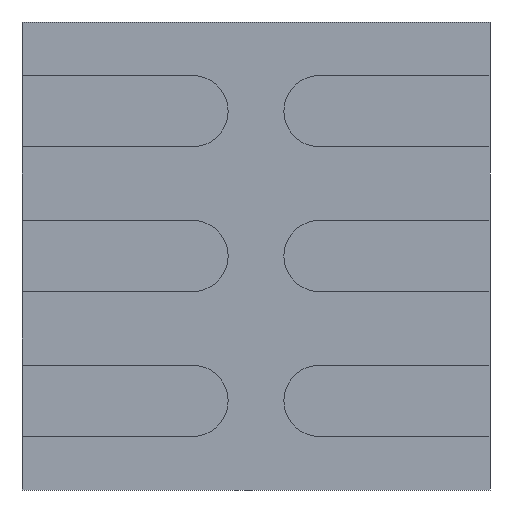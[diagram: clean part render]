
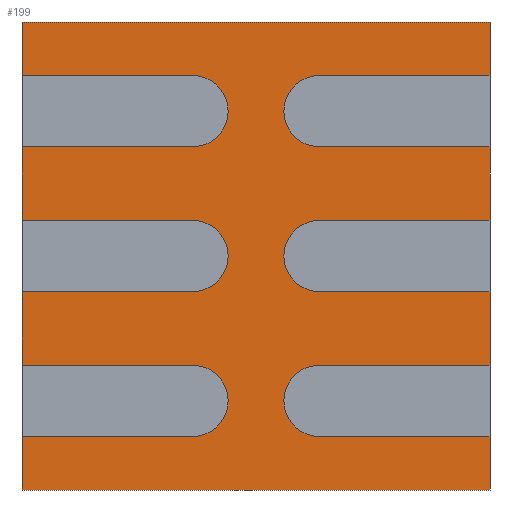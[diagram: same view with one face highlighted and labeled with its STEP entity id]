
A CAD part, front view. The second image highlights one B-rep face of the part: STEP entity #199.
In plain terms, the highlighted planar face has unit normal (0, -1, 0).
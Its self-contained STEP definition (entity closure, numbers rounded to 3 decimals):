
#67 = EDGE_CURVE('',#68,#70,#72,.T.);
#68 = VERTEX_POINT('',#69);
#69 = CARTESIAN_POINT('',(1.05,0.05,-1.05));
#70 = VERTEX_POINT('',#71);
#71 = CARTESIAN_POINT('',(1.05,0.05,-0.81));
#72 = LINE('',#73,#74);
#73 = CARTESIAN_POINT('',(1.05,0.05,-1.05));
#74 = VECTOR('',#75,1.);
#75 = DIRECTION('',(0.,0.,1.));
#94 = VERTEX_POINT('',#95);
#95 = CARTESIAN_POINT('',(1.05,0.05,1.05));
#101 = EDGE_CURVE('',#102,#94,#104,.T.);
#102 = VERTEX_POINT('',#103);
#103 = CARTESIAN_POINT('',(1.05,0.05,0.81));
#104 = LINE('',#105,#106);
#105 = CARTESIAN_POINT('',(1.05,0.05,-1.05));
#106 = VECTOR('',#107,1.);
#107 = DIRECTION('',(0.,0.,1.));
#126 = VERTEX_POINT('',#127);
#127 = CARTESIAN_POINT('',(1.05,0.05,0.49));
#133 = EDGE_CURVE('',#134,#126,#136,.T.);
#134 = VERTEX_POINT('',#135);
#135 = CARTESIAN_POINT('',(1.05,0.05,0.16));
#136 = LINE('',#137,#138);
#137 = CARTESIAN_POINT('',(1.05,0.05,-1.05));
#138 = VECTOR('',#139,1.);
#139 = DIRECTION('',(0.,0.,1.));
#158 = VERTEX_POINT('',#159);
#159 = CARTESIAN_POINT('',(1.05,0.05,-0.16));
#165 = EDGE_CURVE('',#166,#158,#168,.T.);
#166 = VERTEX_POINT('',#167);
#167 = CARTESIAN_POINT('',(1.05,0.05,-0.49));
#168 = LINE('',#169,#170);
#169 = CARTESIAN_POINT('',(1.05,0.05,-1.05));
#170 = VECTOR('',#171,1.);
#171 = DIRECTION('',(0.,0.,1.));
#199 = ADVANCED_FACE('',(#200),#396,.F.);
#200 = FACE_BOUND('',#201,.F.);
#201 = EDGE_LOOP('',(#202,#203,#211,#219,#227,#236,#244,#252,#260,#269,
    #277,#285,#293,#302,#310,#318,#324,#325,#333,#342,#348,#349,#357,
    #366,#372,#373,#381,#390));
#202 = ORIENTED_EDGE('',*,*,#67,.F.);
#203 = ORIENTED_EDGE('',*,*,#204,.F.);
#204 = EDGE_CURVE('',#205,#68,#207,.T.);
#205 = VERTEX_POINT('',#206);
#206 = CARTESIAN_POINT('',(-1.05,0.05,-1.05));
#207 = LINE('',#208,#209);
#208 = CARTESIAN_POINT('',(-1.05,0.05,-1.05));
#209 = VECTOR('',#210,1.);
#210 = DIRECTION('',(1.,0.,0.));
#211 = ORIENTED_EDGE('',*,*,#212,.F.);
#212 = EDGE_CURVE('',#213,#205,#215,.T.);
#213 = VERTEX_POINT('',#214);
#214 = CARTESIAN_POINT('',(-1.05,0.05,-0.81));
#215 = LINE('',#216,#217);
#216 = CARTESIAN_POINT('',(-1.05,0.05,1.05));
#217 = VECTOR('',#218,1.);
#218 = DIRECTION('',(0.,0.,-1.));
#219 = ORIENTED_EDGE('',*,*,#220,.T.);
#220 = EDGE_CURVE('',#213,#221,#223,.T.);
#221 = VERTEX_POINT('',#222);
#222 = CARTESIAN_POINT('',(-0.285,0.05,-0.81));
#223 = LINE('',#224,#225);
#224 = CARTESIAN_POINT('',(-0.143,0.05,-0.81));
#225 = VECTOR('',#226,1.);
#226 = DIRECTION('',(1.,0.,0.));
#227 = ORIENTED_EDGE('',*,*,#228,.T.);
#228 = EDGE_CURVE('',#221,#229,#231,.T.);
#229 = VERTEX_POINT('',#230);
#230 = CARTESIAN_POINT('',(-0.285,0.05,-0.49));
#231 = CIRCLE('',#232,0.16);
#232 = AXIS2_PLACEMENT_3D('',#233,#234,#235);
#233 = CARTESIAN_POINT('',(-0.285,0.05,-0.65));
#234 = DIRECTION('',(0.,-1.,0.));
#235 = DIRECTION('',(1.,0.,0.));
#236 = ORIENTED_EDGE('',*,*,#237,.T.);
#237 = EDGE_CURVE('',#229,#238,#240,.T.);
#238 = VERTEX_POINT('',#239);
#239 = CARTESIAN_POINT('',(-1.05,0.05,-0.49));
#240 = LINE('',#241,#242);
#241 = CARTESIAN_POINT('',(-0.525,0.05,-0.49));
#242 = VECTOR('',#243,1.);
#243 = DIRECTION('',(-1.,0.,0.));
#244 = ORIENTED_EDGE('',*,*,#245,.F.);
#245 = EDGE_CURVE('',#246,#238,#248,.T.);
#246 = VERTEX_POINT('',#247);
#247 = CARTESIAN_POINT('',(-1.05,0.05,-0.16));
#248 = LINE('',#249,#250);
#249 = CARTESIAN_POINT('',(-1.05,0.05,1.05));
#250 = VECTOR('',#251,1.);
#251 = DIRECTION('',(0.,0.,-1.));
#252 = ORIENTED_EDGE('',*,*,#253,.T.);
#253 = EDGE_CURVE('',#246,#254,#256,.T.);
#254 = VERTEX_POINT('',#255);
#255 = CARTESIAN_POINT('',(-0.285,0.05,-0.16));
#256 = LINE('',#257,#258);
#257 = CARTESIAN_POINT('',(-0.143,0.05,-0.16));
#258 = VECTOR('',#259,1.);
#259 = DIRECTION('',(1.,0.,0.));
#260 = ORIENTED_EDGE('',*,*,#261,.T.);
#261 = EDGE_CURVE('',#254,#262,#264,.T.);
#262 = VERTEX_POINT('',#263);
#263 = CARTESIAN_POINT('',(-0.285,0.05,0.16));
#264 = CIRCLE('',#265,0.16);
#265 = AXIS2_PLACEMENT_3D('',#266,#267,#268);
#266 = CARTESIAN_POINT('',(-0.285,0.05,0.));
#267 = DIRECTION('',(0.,-1.,0.));
#268 = DIRECTION('',(1.,0.,0.));
#269 = ORIENTED_EDGE('',*,*,#270,.T.);
#270 = EDGE_CURVE('',#262,#271,#273,.T.);
#271 = VERTEX_POINT('',#272);
#272 = CARTESIAN_POINT('',(-1.05,0.05,0.16));
#273 = LINE('',#274,#275);
#274 = CARTESIAN_POINT('',(-0.525,0.05,0.16));
#275 = VECTOR('',#276,1.);
#276 = DIRECTION('',(-1.,0.,0.));
#277 = ORIENTED_EDGE('',*,*,#278,.F.);
#278 = EDGE_CURVE('',#279,#271,#281,.T.);
#279 = VERTEX_POINT('',#280);
#280 = CARTESIAN_POINT('',(-1.05,0.05,0.49));
#281 = LINE('',#282,#283);
#282 = CARTESIAN_POINT('',(-1.05,0.05,1.05));
#283 = VECTOR('',#284,1.);
#284 = DIRECTION('',(0.,0.,-1.));
#285 = ORIENTED_EDGE('',*,*,#286,.T.);
#286 = EDGE_CURVE('',#279,#287,#289,.T.);
#287 = VERTEX_POINT('',#288);
#288 = CARTESIAN_POINT('',(-0.285,0.05,0.49));
#289 = LINE('',#290,#291);
#290 = CARTESIAN_POINT('',(-0.143,0.05,0.49));
#291 = VECTOR('',#292,1.);
#292 = DIRECTION('',(1.,0.,0.));
#293 = ORIENTED_EDGE('',*,*,#294,.T.);
#294 = EDGE_CURVE('',#287,#295,#297,.T.);
#295 = VERTEX_POINT('',#296);
#296 = CARTESIAN_POINT('',(-0.285,0.05,0.81));
#297 = CIRCLE('',#298,0.16);
#298 = AXIS2_PLACEMENT_3D('',#299,#300,#301);
#299 = CARTESIAN_POINT('',(-0.285,0.05,0.65));
#300 = DIRECTION('',(0.,-1.,0.));
#301 = DIRECTION('',(1.,0.,0.));
#302 = ORIENTED_EDGE('',*,*,#303,.T.);
#303 = EDGE_CURVE('',#295,#304,#306,.T.);
#304 = VERTEX_POINT('',#305);
#305 = CARTESIAN_POINT('',(-1.05,0.05,0.81));
#306 = LINE('',#307,#308);
#307 = CARTESIAN_POINT('',(-0.525,0.05,0.81));
#308 = VECTOR('',#309,1.);
#309 = DIRECTION('',(-1.,0.,0.));
#310 = ORIENTED_EDGE('',*,*,#311,.F.);
#311 = EDGE_CURVE('',#312,#304,#314,.T.);
#312 = VERTEX_POINT('',#313);
#313 = CARTESIAN_POINT('',(-1.05,0.05,1.05));
#314 = LINE('',#315,#316);
#315 = CARTESIAN_POINT('',(-1.05,0.05,1.05));
#316 = VECTOR('',#317,1.);
#317 = DIRECTION('',(0.,0.,-1.));
#318 = ORIENTED_EDGE('',*,*,#319,.F.);
#319 = EDGE_CURVE('',#94,#312,#320,.T.);
#320 = LINE('',#321,#322);
#321 = CARTESIAN_POINT('',(1.05,0.05,1.05));
#322 = VECTOR('',#323,1.);
#323 = DIRECTION('',(-1.,0.,0.));
#324 = ORIENTED_EDGE('',*,*,#101,.F.);
#325 = ORIENTED_EDGE('',*,*,#326,.T.);
#326 = EDGE_CURVE('',#102,#327,#329,.T.);
#327 = VERTEX_POINT('',#328);
#328 = CARTESIAN_POINT('',(0.285,0.05,0.81));
#329 = LINE('',#330,#331);
#330 = CARTESIAN_POINT('',(0.143,0.05,0.81));
#331 = VECTOR('',#332,1.);
#332 = DIRECTION('',(-1.,0.,0.));
#333 = ORIENTED_EDGE('',*,*,#334,.T.);
#334 = EDGE_CURVE('',#327,#335,#337,.T.);
#335 = VERTEX_POINT('',#336);
#336 = CARTESIAN_POINT('',(0.285,0.05,0.49));
#337 = CIRCLE('',#338,0.16);
#338 = AXIS2_PLACEMENT_3D('',#339,#340,#341);
#339 = CARTESIAN_POINT('',(0.285,0.05,0.65));
#340 = DIRECTION('',(0.,-1.,0.));
#341 = DIRECTION('',(1.,0.,0.));
#342 = ORIENTED_EDGE('',*,*,#343,.T.);
#343 = EDGE_CURVE('',#335,#126,#344,.T.);
#344 = LINE('',#345,#346);
#345 = CARTESIAN_POINT('',(0.525,0.05,0.49));
#346 = VECTOR('',#347,1.);
#347 = DIRECTION('',(1.,0.,0.));
#348 = ORIENTED_EDGE('',*,*,#133,.F.);
#349 = ORIENTED_EDGE('',*,*,#350,.T.);
#350 = EDGE_CURVE('',#134,#351,#353,.T.);
#351 = VERTEX_POINT('',#352);
#352 = CARTESIAN_POINT('',(0.285,0.05,0.16));
#353 = LINE('',#354,#355);
#354 = CARTESIAN_POINT('',(0.143,0.05,0.16));
#355 = VECTOR('',#356,1.);
#356 = DIRECTION('',(-1.,0.,0.));
#357 = ORIENTED_EDGE('',*,*,#358,.T.);
#358 = EDGE_CURVE('',#351,#359,#361,.T.);
#359 = VERTEX_POINT('',#360);
#360 = CARTESIAN_POINT('',(0.285,0.05,-0.16));
#361 = CIRCLE('',#362,0.16);
#362 = AXIS2_PLACEMENT_3D('',#363,#364,#365);
#363 = CARTESIAN_POINT('',(0.285,0.05,0.));
#364 = DIRECTION('',(0.,-1.,0.));
#365 = DIRECTION('',(1.,0.,0.));
#366 = ORIENTED_EDGE('',*,*,#367,.T.);
#367 = EDGE_CURVE('',#359,#158,#368,.T.);
#368 = LINE('',#369,#370);
#369 = CARTESIAN_POINT('',(0.525,0.05,-0.16));
#370 = VECTOR('',#371,1.);
#371 = DIRECTION('',(1.,0.,0.));
#372 = ORIENTED_EDGE('',*,*,#165,.F.);
#373 = ORIENTED_EDGE('',*,*,#374,.T.);
#374 = EDGE_CURVE('',#166,#375,#377,.T.);
#375 = VERTEX_POINT('',#376);
#376 = CARTESIAN_POINT('',(0.285,0.05,-0.49));
#377 = LINE('',#378,#379);
#378 = CARTESIAN_POINT('',(0.143,0.05,-0.49));
#379 = VECTOR('',#380,1.);
#380 = DIRECTION('',(-1.,0.,0.));
#381 = ORIENTED_EDGE('',*,*,#382,.T.);
#382 = EDGE_CURVE('',#375,#383,#385,.T.);
#383 = VERTEX_POINT('',#384);
#384 = CARTESIAN_POINT('',(0.285,0.05,-0.81));
#385 = CIRCLE('',#386,0.16);
#386 = AXIS2_PLACEMENT_3D('',#387,#388,#389);
#387 = CARTESIAN_POINT('',(0.285,0.05,-0.65));
#388 = DIRECTION('',(0.,-1.,0.));
#389 = DIRECTION('',(1.,0.,0.));
#390 = ORIENTED_EDGE('',*,*,#391,.T.);
#391 = EDGE_CURVE('',#383,#70,#392,.T.);
#392 = LINE('',#393,#394);
#393 = CARTESIAN_POINT('',(0.525,0.05,-0.81));
#394 = VECTOR('',#395,1.);
#395 = DIRECTION('',(1.,0.,0.));
#396 = PLANE('',#397);
#397 = AXIS2_PLACEMENT_3D('',#398,#399,#400);
#398 = CARTESIAN_POINT('',(0.,0.05,0.));
#399 = DIRECTION('',(0.,1.,0.));
#400 = DIRECTION('',(0.,0.,1.));
